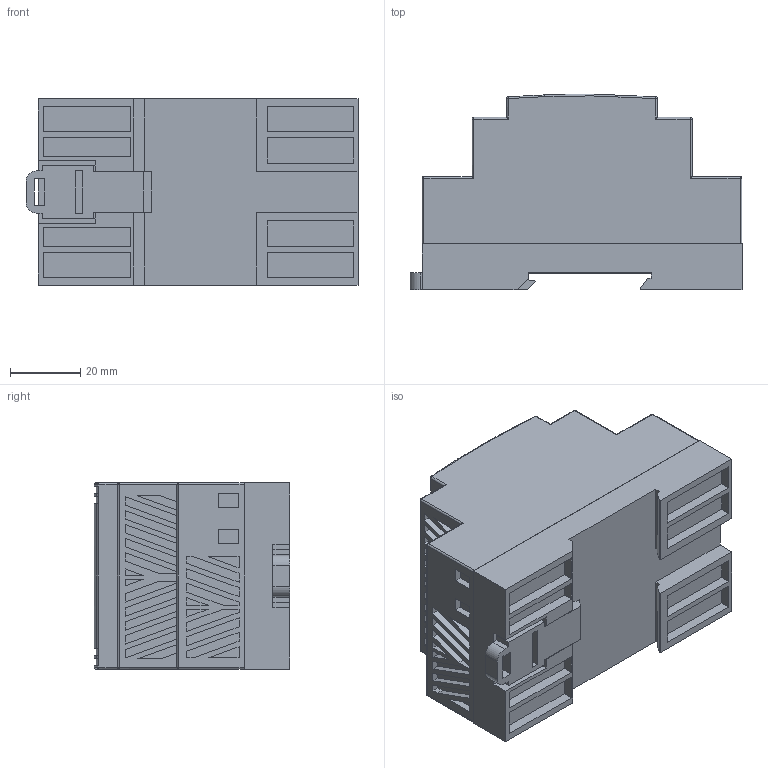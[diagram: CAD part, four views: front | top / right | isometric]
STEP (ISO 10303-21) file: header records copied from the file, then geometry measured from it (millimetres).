
FILE_DESCRIPTION((''),'2;1');
FILE_NAME('LAM_3_ASM','2009-08-25T',('rd13'),(''),'PRO/ENGINEER BY PARAMETRIC TECHNOLOGY CORPORATION, 2008230','PRO/ENGINEER BY PARAMETRIC TECHNOLOGY CORPORATION, 2008230','');
FILE_SCHEMA(('CONFIG_CONTROL_DESIGN'));
Length unit declared in the file: millimetre
Products named in the file (4): LAM_3M_BASE; LAM_3M; SRA_LOCK_SAMPLE; LAM_3_ASM
Assembly tree (3 placements, depth 2):
  LAM_3_ASM
    LAM_3M_BASE
    LAM_3M
    SRA_LOCK_SAMPLE
Bounding box: 94.45 x 55.6 x 53 mm (x, y, z)
Volume: 207639.4 mm3; surface area: 40666.1 mm2
Topology: 3 solids, 3 shells, 458 faces, 1174 edges, 768 vertices
Faces by surface type: plane 383, cylinder 50, sphere 12, extrusion 11, bspline 2
Entity records: 13923 total; most frequent: CARTESIAN_POINT 2672, ORIENTED_EDGE 2348, DIRECTION 2145, EDGE_CURVE 1174, VECTOR 1065, LINE 1054, VERTEX_POINT 768, AXIS2_PLACEMENT_3D 540
